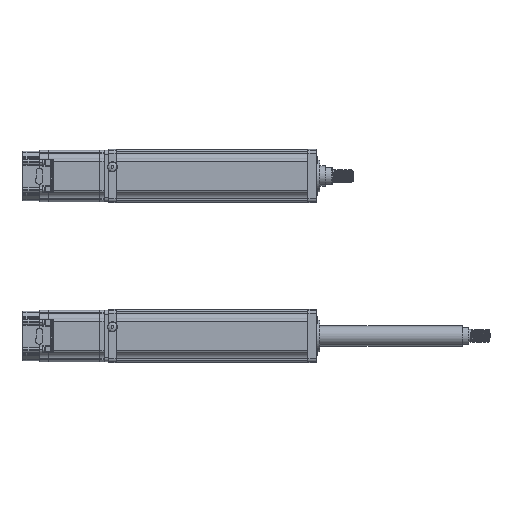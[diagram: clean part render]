
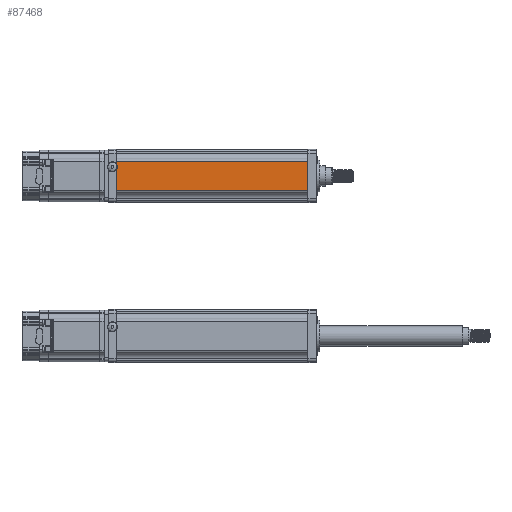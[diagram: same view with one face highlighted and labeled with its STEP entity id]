
A CAD part, top view. The second image highlights one B-rep face of the part: STEP entity #87468.
In plain terms, the highlighted planar face has unit normal (0, 0, 1).
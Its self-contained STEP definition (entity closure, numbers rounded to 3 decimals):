
#85521 = PLANE('',#85522);
#85522 = AXIS2_PLACEMENT_3D('',#85523,#85524,#85525);
#85523 = CARTESIAN_POINT('',(604.,195.885,145.431
    ));
#85524 = DIRECTION('',(-1.,0.,0.));
#85525 = DIRECTION('',(0.,-1.,0.));
#85582 = PLANE('',#85583);
#85583 = AXIS2_PLACEMENT_3D('',#85584,#85585,#85586);
#85584 = CARTESIAN_POINT('',(814.,195.885,145.431
    ));
#85585 = DIRECTION('',(-1.,0.,0.));
#85586 = DIRECTION('',(0.,-1.,0.));
#86191 = VERTEX_POINT('',#86192);
#86192 = CARTESIAN_POINT('',(814.,150.885,203.431)
  );
#86200 = CYLINDRICAL_SURFACE('',#86201,2.5);
#86201 = AXIS2_PLACEMENT_3D('',#86202,#86203,#86204);
#86202 = CARTESIAN_POINT('',(604.,150.885,200.931)
  );
#86203 = DIRECTION('',(-1.,0.,0.));
#86204 = DIRECTION('',(0.,0.,1.));
#86219 = EDGE_CURVE('',#86191,#86220,#86222,.T.);
#86220 = VERTEX_POINT('',#86221);
#86221 = CARTESIAN_POINT('',(604.,150.885,203.431)
  );
#86222 = SURFACE_CURVE('',#86223,(#86227,#86234),.PCURVE_S1.);
#86223 = LINE('',#86224,#86225);
#86224 = CARTESIAN_POINT('',(709.,150.885,203.431)
  );
#86225 = VECTOR('',#86226,1.);
#86226 = DIRECTION('',(-1.,0.,0.));
#86227 = PCURVE('',#86200,#86228);
#86228 = DEFINITIONAL_REPRESENTATION('',(#86229),#86233);
#86229 = LINE('',#86230,#86231);
#86230 = CARTESIAN_POINT('',(6.283,-105.));
#86231 = VECTOR('',#86232,1.);
#86232 = DIRECTION('',(0.,1.));
#86233 = ( GEOMETRIC_REPRESENTATION_CONTEXT(2) 
PARAMETRIC_REPRESENTATION_CONTEXT() REPRESENTATION_CONTEXT('2D SPACE',''
  ) );
#86234 = PCURVE('',#86235,#86240);
#86235 = PLANE('',#86236);
#86236 = AXIS2_PLACEMENT_3D('',#86237,#86238,#86239);
#86237 = CARTESIAN_POINT('',(604.,182.885,203.431)
  );
#86238 = DIRECTION('',(0.,0.,-1.));
#86239 = DIRECTION('',(1.,0.,0.));
#86240 = DEFINITIONAL_REPRESENTATION('',(#86241),#86245);
#86241 = LINE('',#86242,#86243);
#86242 = CARTESIAN_POINT('',(105.,32.));
#86243 = VECTOR('',#86244,1.);
#86244 = DIRECTION('',(-1.,0.));
#86245 = ( GEOMETRIC_REPRESENTATION_CONTEXT(2) 
PARAMETRIC_REPRESENTATION_CONTEXT() REPRESENTATION_CONTEXT('2D SPACE',''
  ) );
#86307 = VERTEX_POINT('',#86308);
#86308 = CARTESIAN_POINT('',(604.,182.885,203.431)
  );
#86316 = CYLINDRICAL_SURFACE('',#86317,2.5);
#86317 = AXIS2_PLACEMENT_3D('',#86318,#86319,#86320);
#86318 = CARTESIAN_POINT('',(814.,182.885,200.931)
  );
#86319 = DIRECTION('',(1.,0.,0.));
#86320 = DIRECTION('',(0.,0.,1.));
#86339 = EDGE_CURVE('',#86307,#86340,#86342,.T.);
#86340 = VERTEX_POINT('',#86341);
#86341 = CARTESIAN_POINT('',(814.,182.885,203.431)
  );
#86342 = SURFACE_CURVE('',#86343,(#86347,#86354),.PCURVE_S1.);
#86343 = LINE('',#86344,#86345);
#86344 = CARTESIAN_POINT('',(709.,182.885,203.431)
  );
#86345 = VECTOR('',#86346,1.);
#86346 = DIRECTION('',(1.,0.,0.));
#86347 = PCURVE('',#86316,#86348);
#86348 = DEFINITIONAL_REPRESENTATION('',(#86349),#86353);
#86349 = LINE('',#86350,#86351);
#86350 = CARTESIAN_POINT('',(6.283,-105.));
#86351 = VECTOR('',#86352,1.);
#86352 = DIRECTION('',(0.,1.));
#86353 = ( GEOMETRIC_REPRESENTATION_CONTEXT(2) 
PARAMETRIC_REPRESENTATION_CONTEXT() REPRESENTATION_CONTEXT('2D SPACE',''
  ) );
#86354 = PCURVE('',#86235,#86355);
#86355 = DEFINITIONAL_REPRESENTATION('',(#86356),#86360);
#86356 = LINE('',#86357,#86358);
#86357 = CARTESIAN_POINT('',(105.,0.));
#86358 = VECTOR('',#86359,1.);
#86359 = DIRECTION('',(1.,0.));
#86360 = ( GEOMETRIC_REPRESENTATION_CONTEXT(2) 
PARAMETRIC_REPRESENTATION_CONTEXT() REPRESENTATION_CONTEXT('2D SPACE',''
  ) );
#86767 = EDGE_CURVE('',#86340,#86191,#86768,.T.);
#86768 = SURFACE_CURVE('',#86769,(#86773,#86780),.PCURVE_S1.);
#86769 = LINE('',#86770,#86771);
#86770 = CARTESIAN_POINT('',(814.,166.885,203.431)
  );
#86771 = VECTOR('',#86772,1.);
#86772 = DIRECTION('',(0.,-1.,0.));
#86773 = PCURVE('',#85582,#86774);
#86774 = DEFINITIONAL_REPRESENTATION('',(#86775),#86779);
#86775 = LINE('',#86776,#86777);
#86776 = CARTESIAN_POINT('',(29.,58.));
#86777 = VECTOR('',#86778,1.);
#86778 = DIRECTION('',(1.,0.));
#86779 = ( GEOMETRIC_REPRESENTATION_CONTEXT(2) 
PARAMETRIC_REPRESENTATION_CONTEXT() REPRESENTATION_CONTEXT('2D SPACE',''
  ) );
#86780 = PCURVE('',#86235,#86781);
#86781 = DEFINITIONAL_REPRESENTATION('',(#86782),#86786);
#86782 = LINE('',#86783,#86784);
#86783 = CARTESIAN_POINT('',(210.,16.));
#86784 = VECTOR('',#86785,1.);
#86785 = DIRECTION('',(0.,1.));
#86786 = ( GEOMETRIC_REPRESENTATION_CONTEXT(2) 
PARAMETRIC_REPRESENTATION_CONTEXT() REPRESENTATION_CONTEXT('2D SPACE',''
  ) );
#87208 = EDGE_CURVE('',#86220,#86307,#87209,.T.);
#87209 = SURFACE_CURVE('',#87210,(#87214,#87221),.PCURVE_S1.);
#87210 = LINE('',#87211,#87212);
#87211 = CARTESIAN_POINT('',(604.,166.885,203.431)
  );
#87212 = VECTOR('',#87213,1.);
#87213 = DIRECTION('',(0.,1.,0.));
#87214 = PCURVE('',#85521,#87215);
#87215 = DEFINITIONAL_REPRESENTATION('',(#87216),#87220);
#87216 = LINE('',#87217,#87218);
#87217 = CARTESIAN_POINT('',(29.,58.));
#87218 = VECTOR('',#87219,1.);
#87219 = DIRECTION('',(-1.,0.));
#87220 = ( GEOMETRIC_REPRESENTATION_CONTEXT(2) 
PARAMETRIC_REPRESENTATION_CONTEXT() REPRESENTATION_CONTEXT('2D SPACE',''
  ) );
#87221 = PCURVE('',#86235,#87222);
#87222 = DEFINITIONAL_REPRESENTATION('',(#87223),#87227);
#87223 = LINE('',#87224,#87225);
#87224 = CARTESIAN_POINT('',(0.,16.));
#87225 = VECTOR('',#87226,1.);
#87226 = DIRECTION('',(0.,-1.));
#87227 = ( GEOMETRIC_REPRESENTATION_CONTEXT(2) 
PARAMETRIC_REPRESENTATION_CONTEXT() REPRESENTATION_CONTEXT('2D SPACE',''
  ) );
#87468 = ADVANCED_FACE('',(#87469),#86235,.F.);
#87469 = FACE_BOUND('',#87470,.T.);
#87470 = EDGE_LOOP('',(#87471,#87472,#87473,#87474));
#87471 = ORIENTED_EDGE('',*,*,#86219,.F.);
#87472 = ORIENTED_EDGE('',*,*,#86767,.F.);
#87473 = ORIENTED_EDGE('',*,*,#86339,.F.);
#87474 = ORIENTED_EDGE('',*,*,#87208,.F.);
